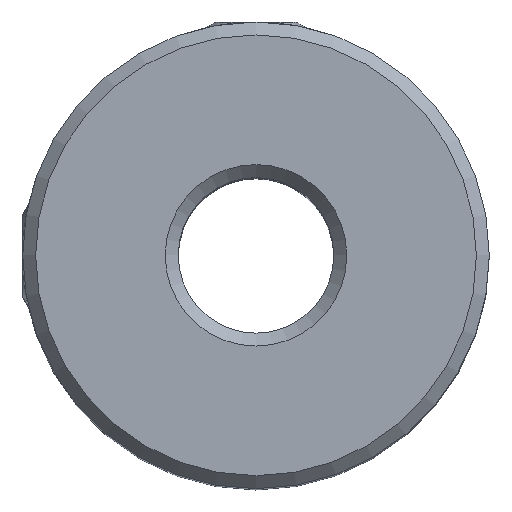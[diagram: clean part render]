
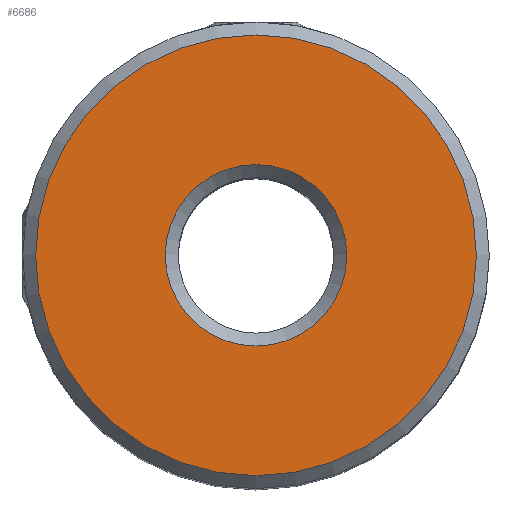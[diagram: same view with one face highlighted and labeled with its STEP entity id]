
A CAD part, top view. The second image highlights one B-rep face of the part: STEP entity #6686.
In plain terms, the highlighted planar face has unit normal (0, 0, 1).
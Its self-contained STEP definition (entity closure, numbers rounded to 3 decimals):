
#182 = CARTESIAN_POINT ( 'NONE',  ( 0., 0., 15. ) ) ;
#1622 = CIRCLE ( 'NONE', #2954, 8.5 ) ;
#1687 = DIRECTION ( 'NONE',  ( 1., 0., 0. ) ) ;
#1904 = EDGE_CURVE ( 'NONE', #4874, #4874, #1622, .T. ) ;
#2175 = ORIENTED_EDGE ( 'NONE', *, *, #1904, .T. ) ;
#2221 = FACE_OUTER_BOUND ( 'NONE', #2702, .T. ) ;
#2266 = DIRECTION ( 'NONE',  ( 0., 0., 1. ) ) ;
#2373 = CARTESIAN_POINT ( 'NONE',  ( 0., 0., 15. ) ) ;
#2483 = DIRECTION ( 'NONE',  ( 0., 0., 1. ) ) ;
#2658 = AXIS2_PLACEMENT_3D ( 'NONE', #182, #2483, #3000 ) ;
#2702 = EDGE_LOOP ( 'NONE', ( #2175 ) ) ;
#2932 = CIRCLE ( 'NONE', #7093, 3.5 ) ;
#2954 = AXIS2_PLACEMENT_3D ( 'NONE', #3982, #2266, #1687 ) ;
#3000 = DIRECTION ( 'NONE',  ( 1., 0., 0. ) ) ;
#3680 = EDGE_LOOP ( 'NONE', ( #3937 ) ) ;
#3937 = ORIENTED_EDGE ( 'NONE', *, *, #5052, .T. ) ;
#3982 = CARTESIAN_POINT ( 'NONE',  ( 0., 0., 15. ) ) ;
#4056 = DIRECTION ( 'NONE',  ( 0., 0., -1. ) ) ;
#4874 = VERTEX_POINT ( 'NONE', #5995 ) ;
#5052 = EDGE_CURVE ( 'NONE', #6588, #6588, #2932, .T. ) ;
#5995 = CARTESIAN_POINT ( 'NONE',  ( 8.5, 0., 15. ) ) ;
#6319 = DIRECTION ( 'NONE',  ( 1., 0., 0. ) ) ;
#6588 = VERTEX_POINT ( 'NONE', #7136 ) ;
#6686 = ADVANCED_FACE ( 'NONE', ( #7398, #2221 ), #6767, .T. ) ;
#6767 = PLANE ( 'NONE',  #2658 ) ;
#7093 = AXIS2_PLACEMENT_3D ( 'NONE', #2373, #4056, #6319 ) ;
#7136 = CARTESIAN_POINT ( 'NONE',  ( 3.5, 0., 15. ) ) ;
#7398 = FACE_BOUND ( 'NONE', #3680, .T. ) ;
